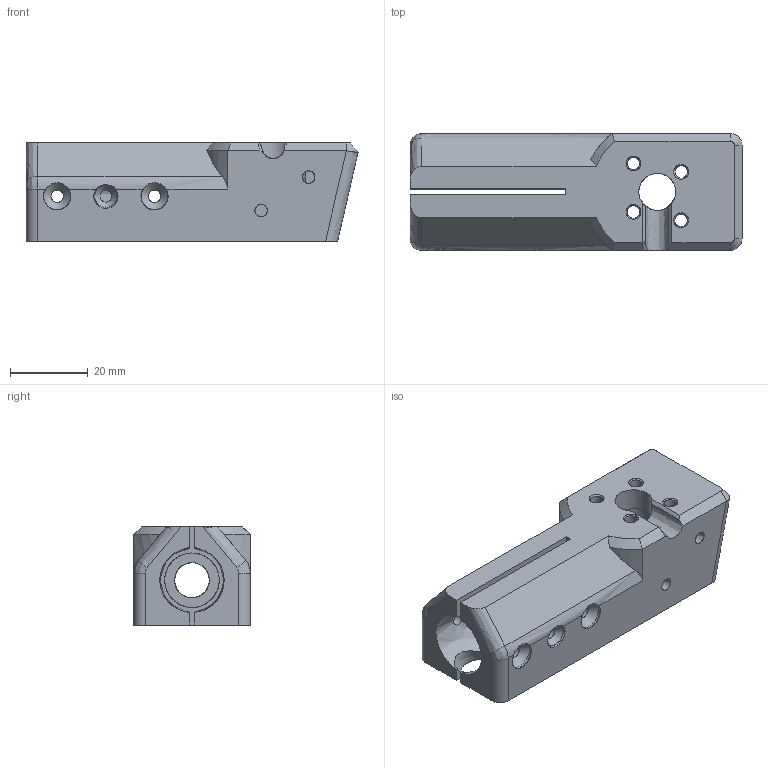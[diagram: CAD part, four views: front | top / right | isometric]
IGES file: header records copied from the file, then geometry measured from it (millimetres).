
Global section: file name: C:\Users\gehrichcr\Documents\1 Drive Backup\Practice\Inspire\V1.5\IGES\Frame Motor Mount V1.5.igs; native system: NX V8.5; preprocessor: SIEMENS PLM Software NX 8.5; date: 20150608.155406; units: millimetre
Bounding box: 85.25 x 30 x 25.24 mm (x, y, z)
Surface area: 15298.9 mm2 (no closed solid volume)
Topology: 0 solids, 0 shells, 121 faces, 1059 edges, 1036 vertices
Faces by surface type: bspline 121
